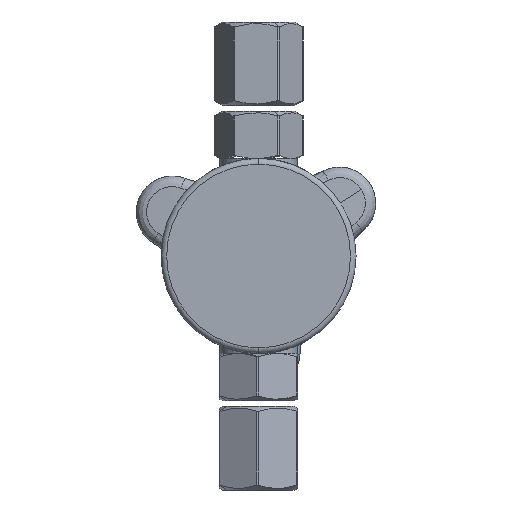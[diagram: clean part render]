
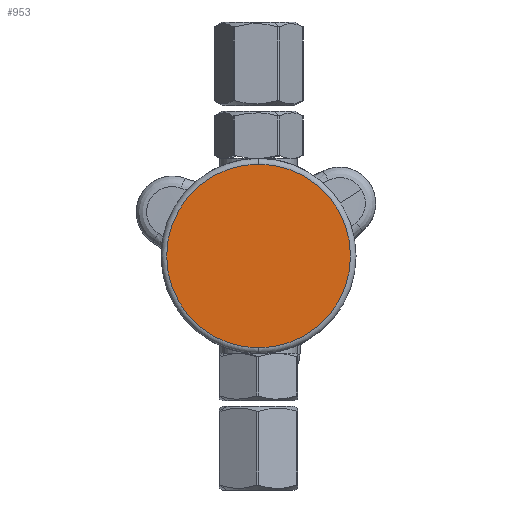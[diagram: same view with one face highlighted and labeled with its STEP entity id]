
A CAD part, front view. The second image highlights one B-rep face of the part: STEP entity #953.
In plain terms, the highlighted planar face has unit normal (0, -1, 0).
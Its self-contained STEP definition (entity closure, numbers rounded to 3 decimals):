
#953 = ADVANCED_FACE ( 'NONE', ( #962 ), #7359, .T. ) ;
#962 = FACE_OUTER_BOUND ( 'NONE', #3247, .T. ) ;
#1312 = CARTESIAN_POINT ( 'NONE',  ( 0., -25., 0. ) ) ;
#1477 = CARTESIAN_POINT ( 'NONE',  ( 0., -25., 16.5 ) ) ;
#1601 = DIRECTION ( 'NONE',  ( 0., -1., 0. ) ) ;
#1637 = CARTESIAN_POINT ( 'NONE',  ( 0., -25., -16.5 ) ) ;
#1699 = DIRECTION ( 'NONE',  ( 0., -1., 0. ) ) ;
#1828 = ORIENTED_EDGE ( 'NONE', *, *, #6618, .T. ) ;
#1851 = CIRCLE ( 'NONE', #2917, 16.5 ) ;
#2158 = AXIS2_PLACEMENT_3D ( 'NONE', #5722, #1601, #5956 ) ;
#2222 = VERTEX_POINT ( 'NONE', #1637 ) ;
#2425 = CIRCLE ( 'NONE', #2158, 16.5 ) ;
#2917 = AXIS2_PLACEMENT_3D ( 'NONE', #1312, #3179, #3909 ) ;
#3179 = DIRECTION ( 'NONE',  ( 0., -1., 0. ) ) ;
#3247 = EDGE_LOOP ( 'NONE', ( #3329, #1828 ) ) ;
#3329 = ORIENTED_EDGE ( 'NONE', *, *, #5599, .T. ) ;
#3909 = DIRECTION ( 'NONE',  ( 0., 0., -1. ) ) ;
#4162 = DIRECTION ( 'NONE',  ( 0., 0., -1. ) ) ;
#4201 = CARTESIAN_POINT ( 'NONE',  ( 0., -25., 0. ) ) ;
#5599 = EDGE_CURVE ( 'NONE', #2222, #5731, #1851, .T. ) ;
#5722 = CARTESIAN_POINT ( 'NONE',  ( 0., -25., 0. ) ) ;
#5731 = VERTEX_POINT ( 'NONE', #1477 ) ;
#5956 = DIRECTION ( 'NONE',  ( 0., 0., -1. ) ) ;
#6554 = AXIS2_PLACEMENT_3D ( 'NONE', #4201, #1699, #4162 ) ;
#6618 = EDGE_CURVE ( 'NONE', #5731, #2222, #2425, .T. ) ;
#7359 = PLANE ( 'NONE',  #6554 ) ;
